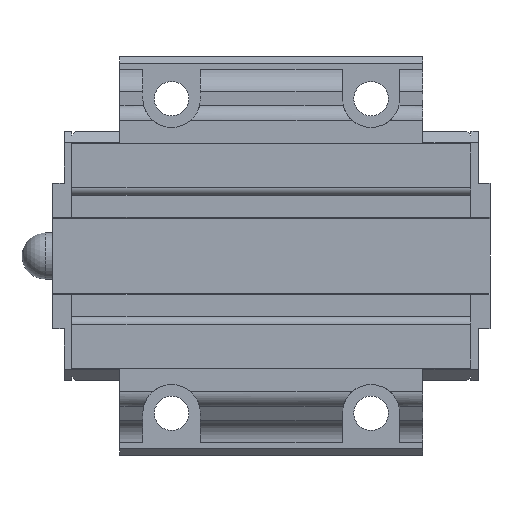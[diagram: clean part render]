
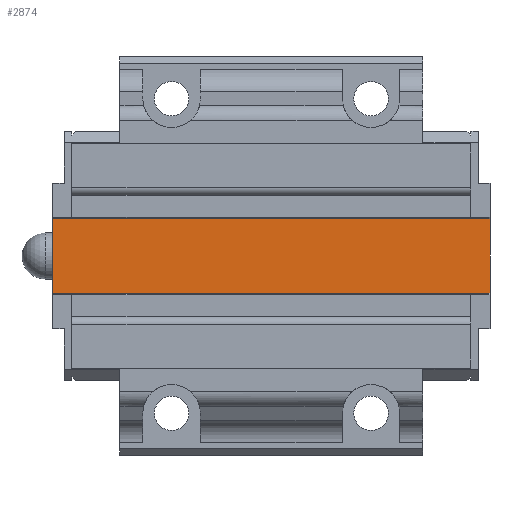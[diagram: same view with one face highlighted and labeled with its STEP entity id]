
A CAD part, front view. The second image highlights one B-rep face of the part: STEP entity #2874.
In plain terms, the highlighted planar face has unit normal (0, -1, 0).
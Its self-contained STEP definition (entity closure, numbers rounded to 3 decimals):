
#320=LINE('',#4671,#646);
#335=LINE('',#4714,#661);
#350=LINE('',#4750,#676);
#351=LINE('',#4752,#677);
#646=VECTOR('',#3777,1000.);
#661=VECTOR('',#3816,1000.);
#676=VECTOR('',#3859,1000.);
#677=VECTOR('',#3862,1000.);
#792=PLANE('',#3120);
#1582=ORIENTED_EDGE('',*,*,#2016,.F.);
#1583=ORIENTED_EDGE('',*,*,#2056,.F.);
#1584=ORIENTED_EDGE('',*,*,#2038,.T.);
#1585=ORIENTED_EDGE('',*,*,#2057,.T.);
#2016=EDGE_CURVE('',#2320,#2321,#320,.T.);
#2038=EDGE_CURVE('',#2337,#2336,#335,.T.);
#2056=EDGE_CURVE('',#2337,#2320,#350,.T.);
#2057=EDGE_CURVE('',#2336,#2321,#351,.T.);
#2320=VERTEX_POINT('',#4670);
#2321=VERTEX_POINT('',#4672);
#2336=VERTEX_POINT('',#4713);
#2337=VERTEX_POINT('',#4715);
#2556=EDGE_LOOP('',(#1582,#1583,#1584,#1585));
#2724=FACE_BOUND('',#2556,.T.);
#2874=ADVANCED_FACE('',(#2724),#792,.T.);
#3120=AXIS2_PLACEMENT_3D('',#4751,#3860,#3861);
#3777=DIRECTION('',(0.,0.,1.));
#3816=DIRECTION('',(0.,0.,1.));
#3859=DIRECTION('',(-1.,0.,0.));
#3860=DIRECTION('',(0.,-1.,0.));
#3861=DIRECTION('',(0.,0.,-1.));
#3862=DIRECTION('',(-1.,0.,0.));
#4670=CARTESIAN_POINT('',(-28.5,8.,-4.844));
#4671=CARTESIAN_POINT('',(-28.5,8.,-4.844));
#4672=CARTESIAN_POINT('',(-28.5,8.,4.844));
#4713=CARTESIAN_POINT('',(28.5,8.,4.844));
#4714=CARTESIAN_POINT('',(28.5,8.,-4.844));
#4715=CARTESIAN_POINT('',(28.5,8.,-4.844));
#4750=CARTESIAN_POINT('',(28.5,8.,-4.844));
#4751=CARTESIAN_POINT('',(28.5,8.,-4.844));
#4752=CARTESIAN_POINT('',(28.5,8.,4.844));
